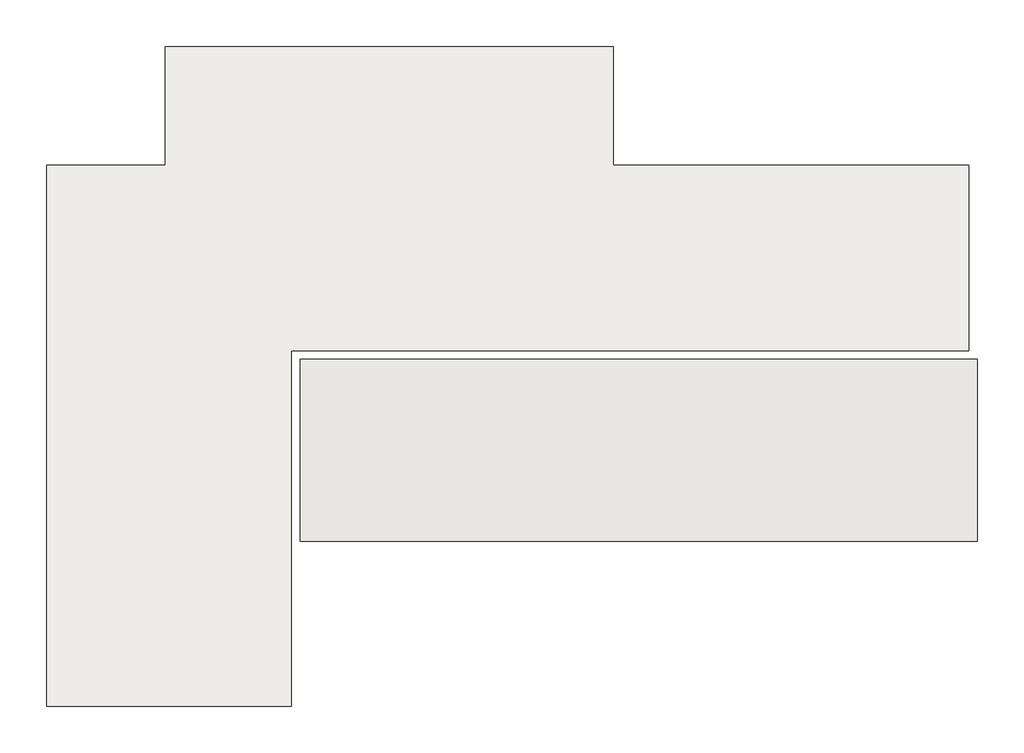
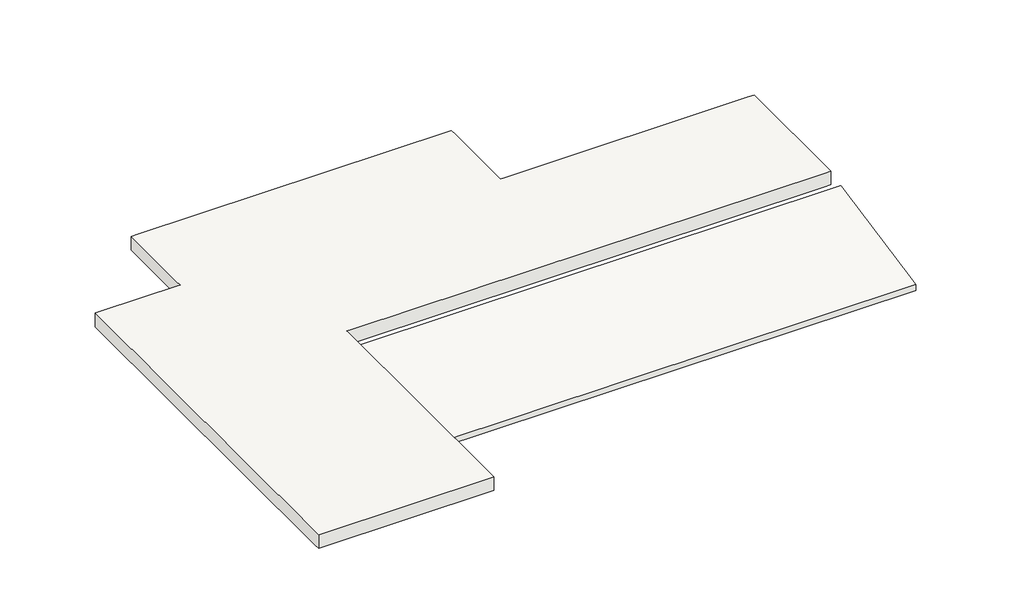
# One storey: 2 roofs.
"""IFC4 building model written with IfcOpenShell, lengths in millimetres."""

from ifc_helpers import new_model, si_unit, frame, origin, place, context, project, spatial, polyline, outline, extrude, faceted_brep, element, save

model = new_model("IFC4")

# Units and contexts
model_context = context("Model", 3, world=origin())
ifc_project = project(units=[si_unit("LENGTHUNIT", "METRE", prefix="MILLI")], contexts=[model_context])

# Site, building, storey
site = spatial("IfcSite", under=ifc_project)
building = spatial("IfcBuilding", under=site)
storey = spatial("IfcBuildingStorey", under=building, Name="Кровля", Elevation=9000.0)

# Roofs
placement = place(None, origin())
element("IfcRoof", 1, ObjectType="_ЖБ-200_Ст-75_У-200_Ст-30_Кр-10", at=placement, inside=storey, context=model_context, shape_type="Brep", body=[
    faceted_brep([(-14507.2117644, -7907.6023172, 9000.0), (-14507.2117644, -7707.6023172, 9000.0), (-14507.2117644, 5792.3976828, 9000.0), (-14307.2117644, 5792.3976828, 9000.0), (-11507.2117644, 5792.3976828, 9000.0), (-11507.2117644, 6012.3976828, 9000.0), (-11507.2117644, 8792.3976828, 9000.0), (-11307.2117644, 8792.3976828, 9000.0), (-157.2117644, 8792.3976828, 9000.0), (-157.2117644, 8592.3976828, 9000.0), (-157.2117644, 5792.3976828, 9000.0), (62.7882356, 5792.3976828, 9000.0), (8642.7882356, 5792.3976828, 9000.0), (8842.7882356, 5792.3976828, 9000.0), (8842.7882356, 1092.3976828, 9000.0), (8642.7882356, 1092.3976828, 9000.0), (-8087.2117644, 1092.3976828, 9000.0), (-8307.2117644, 1092.3976828, 9000.0), (-8307.2117644, -3417.6023172, 9000.0), (-8307.2117644, -7707.6023172, 9000.0), (-8307.2117644, -7907.6023172, 9000.0), (-14507.2117644, 5792.3976828, 9515.0), (-14507.2117644, -7707.6023172, 9515.0), (-14507.2117644, -7907.6023172, 9515.0), (-8307.2117644, -7907.6023172, 9515.0), (-8307.2117644, -7707.6023172, 9515.0), (-8307.2117644, -3417.6023172, 9515.0), (-8307.2117644, 1092.3976828, 9515.0), (-8087.2117644, 1092.3976828, 9515.0), (8642.7882356, 1092.3976828, 9515.0), (8842.7882356, 1092.3976828, 9515.0), (8842.7882356, 5792.3976828, 9515.0), (8642.7882356, 5792.3976828, 9515.0), (62.7882356, 5792.3976828, 9515.0), (-157.2117644, 5792.3976828, 9515.0), (-157.2117644, 8592.3976828, 9515.0), (-157.2117644, 8792.3976828, 9515.0), (-11307.2117644, 8792.3976828, 9515.0), (-11507.2117644, 8792.3976828, 9515.0), (-11507.2117644, 6012.3976828, 9515.0), (-11507.2117644, 5792.3976828, 9515.0), (-14307.2117644, 5792.3976828, 9515.0)], [[[0, 1, 2, 3, 4, 5, 6, 7, 8, 9, 10, 11, 12, 13, 14, 15, 16, 17, 18, 19, 20]], [[21, 22, 23, 24, 25, 26, 27, 28, 29, 30, 31, 32, 33, 34, 35, 36, 37, 38, 39, 40, 41]], [[23, 22, 21, 2, 1, 0]], [[24, 23, 0, 20]], [[27, 26, 25, 24, 20, 19, 18, 17]], [[30, 29, 28, 27, 17, 16, 15, 14]], [[31, 30, 14, 13]], [[34, 33, 32, 31, 13, 12, 11, 10]], [[36, 35, 34, 10, 9, 8]], [[38, 37, 36, 8, 7, 6]], [[40, 39, 38, 6, 5, 4]], [[21, 41, 40, 4, 3, 2]]]),
])
element("IfcRoof", 2, ObjectType="Деревянное стропило 184мм - Битумная черепица", at=placement, inside=storey, context=model_context, shape_type="SweptSolid", body=[
    extrude(outline(polyline([(-3737.2947892, 8103.8313143), (872.3976828, 9020.7475121), (872.3976828, 8807.6530365), (-3737.2947892, 7890.7368387), (-3737.2947892, 8103.8313143)])), frame((-8087.2117644, 0.0, 0.0), z_axis=(1.0, 0.0, 0.0), x_axis=(0.0, 1.0, 0.0)), (0.0, 0.0, 1.0), 17150.0),
])

save(model, "model.ifc")
